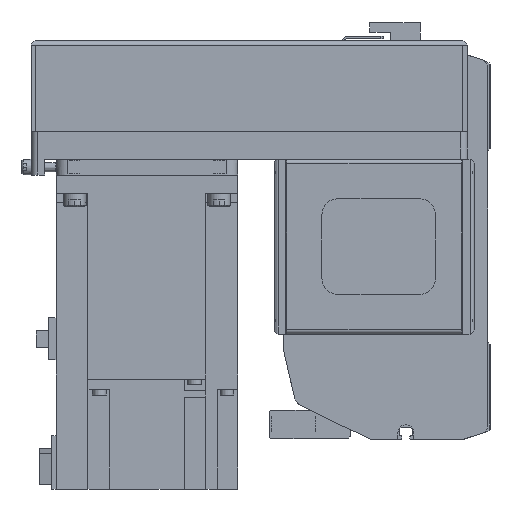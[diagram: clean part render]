
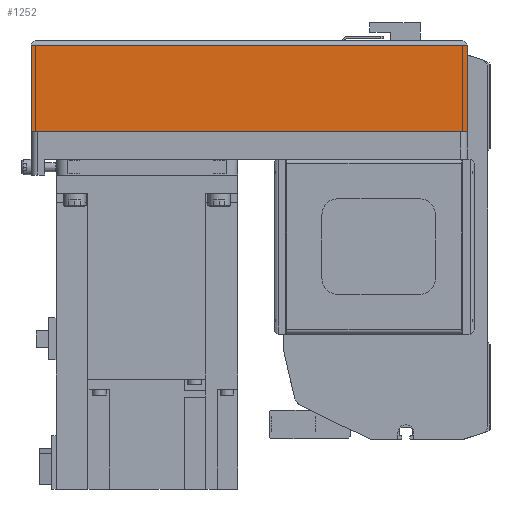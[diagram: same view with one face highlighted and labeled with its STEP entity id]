
A CAD part, left-side view. The second image highlights one B-rep face of the part: STEP entity #1252.
In plain terms, the highlighted planar face has unit normal (-1, 0, 0) as drawn and (0, 1, 0) by its records, which use the part's own axes.
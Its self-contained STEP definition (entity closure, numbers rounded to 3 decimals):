
#1252 = ADVANCED_FACE( '', ( #3443 ), #3444, .T. );
#3443 = FACE_OUTER_BOUND( '', #6937, .T. );
#3444 = PLANE( '', #6938 );
#6937 = EDGE_LOOP( '', ( #10574, #10575, #10576, #10577 ) );
#6938 = AXIS2_PLACEMENT_3D( '', #10578, #10579, #10580 );
#10574 = ORIENTED_EDGE( '', *, *, #19879, .F. );
#10575 = ORIENTED_EDGE( '', *, *, #19880, .F. );
#10576 = ORIENTED_EDGE( '', *, *, #19881, .T. );
#10577 = ORIENTED_EDGE( '', *, *, #19882, .T. );
#10578 = CARTESIAN_POINT( '', ( -192., 40., -50. ) );
#10579 = DIRECTION( '', ( 0., 1., 0. ) );
#10580 = DIRECTION( '', ( 0., 0., 1. ) );
#19879 = EDGE_CURVE( '', #23639, #23640, #23641, .T. );
#19880 = EDGE_CURVE( '', #23642, #23639, #23643, .T. );
#19881 = EDGE_CURVE( '', #23642, #23644, #23645, .T. );
#19882 = EDGE_CURVE( '', #23644, #23640, #23646, .T. );
#23639 = VERTEX_POINT( '', #29139 );
#23640 = VERTEX_POINT( '', #29140 );
#23641 = LINE( '', #29141, #29142 );
#23642 = VERTEX_POINT( '', #29143 );
#23643 = LINE( '', #29144, #29145 );
#23644 = VERTEX_POINT( '', #29146 );
#23645 = LINE( '', #29147, #29148 );
#23646 = LINE( '', #29149, #29150 );
#29139 = CARTESIAN_POINT( '', ( 0., 40., -50. ) );
#29140 = CARTESIAN_POINT( '', ( 0., 40., -12.1 ) );
#29141 = CARTESIAN_POINT( '', ( 0., 40., -50. ) );
#29142 = VECTOR( '', #37176, 1000. );
#29143 = CARTESIAN_POINT( '', ( -192., 40., -50. ) );
#29144 = CARTESIAN_POINT( '', ( -192., 40., -50. ) );
#29145 = VECTOR( '', #37177, 1000. );
#29146 = CARTESIAN_POINT( '', ( -192., 40., -12.1 ) );
#29147 = CARTESIAN_POINT( '', ( -192., 40., -50. ) );
#29148 = VECTOR( '', #37178, 1000. );
#29149 = CARTESIAN_POINT( '', ( -192., 40., -12.1 ) );
#29150 = VECTOR( '', #37179, 1000. );
#37176 = DIRECTION( '', ( 0., 0., 1. ) );
#37177 = DIRECTION( '', ( 1., 0., 0. ) );
#37178 = DIRECTION( '', ( 0., 0., 1. ) );
#37179 = DIRECTION( '', ( 1., 0., 0. ) );
